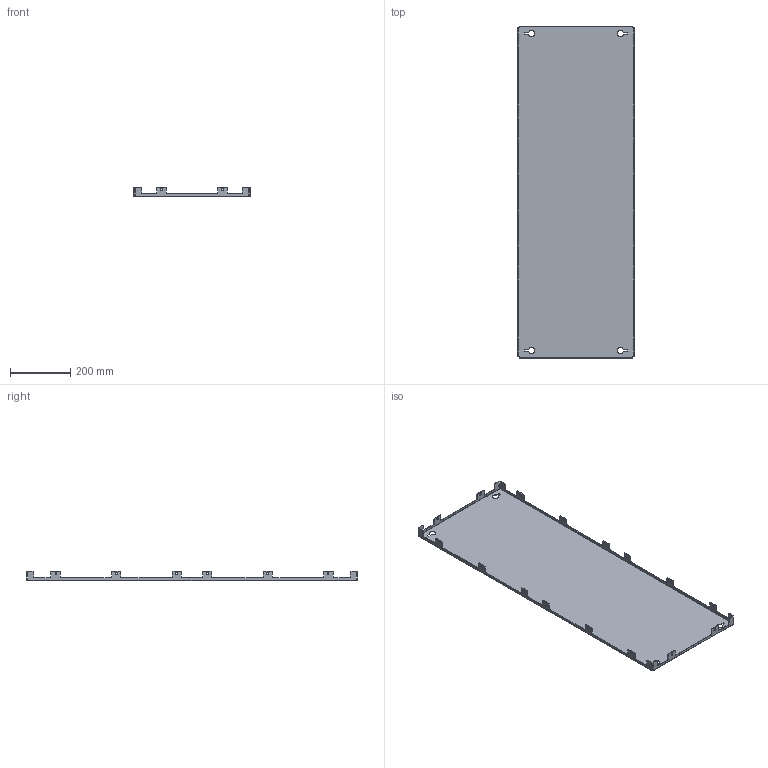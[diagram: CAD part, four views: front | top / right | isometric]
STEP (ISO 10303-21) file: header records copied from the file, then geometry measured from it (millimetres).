
FILE_DESCRIPTION (( 'STEP AP203' ), '1' );
FILE_NAME ('R5LPS1205.STEP', '2021-12-17T12:32:57', ( '' ), ( '' ), 'SwSTEP 2.0', 'SolidWorks 2020', '' );
FILE_SCHEMA (( 'CONFIG_CONTROL_DESIGN' ));
Length unit declared in the file: millimetre
Products named in the file (1): R5LPS1205
Bounding box: 384 x 1098 x 32.5 mm (x, y, z)
Volume: 910033.9 mm3; surface area: 919614.6 mm2
Topology: 1 solids, 1 shells, 328 faces, 946 edges, 620 vertices
Faces by surface type: plane 210, cylinder 118
Entity records: 10887 total; most frequent: CARTESIAN_POINT 1895, ORIENTED_EDGE 1892, DIRECTION 1840, EDGE_CURVE 946, VECTOR 710, LINE 710, VERTEX_POINT 620, AXIS2_PLACEMENT_3D 565
